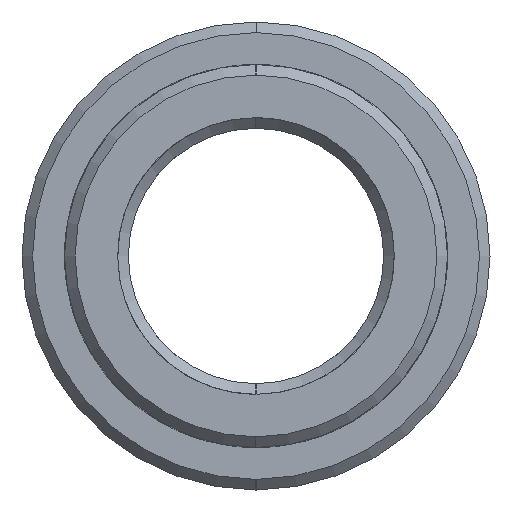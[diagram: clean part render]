
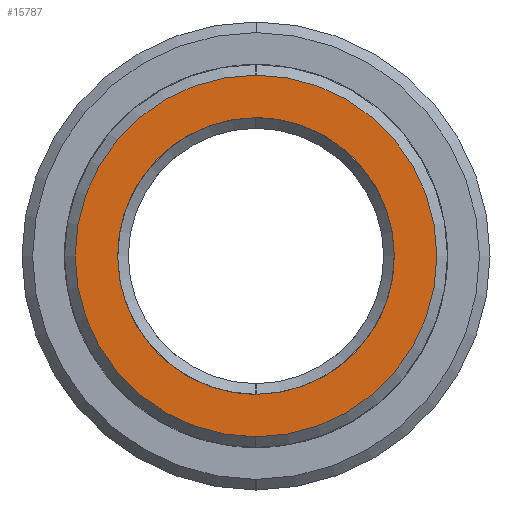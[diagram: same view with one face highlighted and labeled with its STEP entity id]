
A CAD part, left-side view. The second image highlights one B-rep face of the part: STEP entity #15787.
In plain terms, the highlighted planar face has unit normal (1, 0, 0).
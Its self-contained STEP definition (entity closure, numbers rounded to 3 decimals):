
#15704=CARTESIAN_POINT('Axis2P3D Location',(-9.,0.,0.)) ;
#15709=CARTESIAN_POINT('Axis2P3D Location',(-9.,0.,0.)) ;
#15713=CARTESIAN_POINT('Vertex',(-9.,0.,8.5)) ;
#15715=CARTESIAN_POINT('Vertex',(-9.,0.,-8.5)) ;
#15718=CARTESIAN_POINT('Axis2P3D Location',(-9.,0.,0.)) ;
#15728=CARTESIAN_POINT('Control Point',(-9.,0.,6.5)) ;
#15729=CARTESIAN_POINT('Control Point',(-9.,0.624,6.5)) ;
#15730=CARTESIAN_POINT('Control Point',(-9.,1.249,6.425)) ;
#15731=CARTESIAN_POINT('Control Point',(-9.,1.861,6.275)) ;
#15732=CARTESIAN_POINT('Control Point',(-9.,3.038,5.831)) ;
#15733=CARTESIAN_POINT('Control Point',(-9.,4.077,5.121)) ;
#15734=CARTESIAN_POINT('Control Point',(-9.,4.551,4.705)) ;
#15735=CARTESIAN_POINT('Control Point',(-9.,5.389,3.767)) ;
#15736=CARTESIAN_POINT('Control Point',(-9.,5.982,2.657)) ;
#15737=CARTESIAN_POINT('Control Point',(-9.,6.21,2.069)) ;
#15738=CARTESIAN_POINT('Control Point',(-9.,6.52,0.85)) ;
#15739=CARTESIAN_POINT('Control Point',(-9.,6.533,-0.408)) ;
#15740=CARTESIAN_POINT('Control Point',(-9.,6.463,-1.035)) ;
#15741=CARTESIAN_POINT('Control Point',(-9.,6.175,-2.259)) ;
#15742=CARTESIAN_POINT('Control Point',(-9.,5.605,-3.381)) ;
#15743=CARTESIAN_POINT('Control Point',(-9.,5.253,-3.904)) ;
#15744=CARTESIAN_POINT('Control Point',(-9.,4.432,-4.857)) ;
#15745=CARTESIAN_POINT('Control Point',(-9.,3.408,-5.588)) ;
#15746=CARTESIAN_POINT('Control Point',(-9.,2.855,-5.89)) ;
#15747=CARTESIAN_POINT('Control Point',(-9.,1.955,-6.248)) ;
#15748=CARTESIAN_POINT('Control Point',(-9.,1.009,-6.434)) ;
#15749=CARTESIAN_POINT('Control Point',(-9.,0.674,-6.478)) ;
#15750=CARTESIAN_POINT('Control Point',(-9.,0.337,-6.5)) ;
#15751=CARTESIAN_POINT('Control Point',(-9.,0.,-6.5)) ;
#15752=CARTESIAN_POINT('Vertex',(-9.,0.,6.5)) ;
#15754=CARTESIAN_POINT('Vertex',(-9.,0.,-6.5)) ;
#15758=CARTESIAN_POINT('Control Point',(-9.,0.,-6.5)) ;
#15759=CARTESIAN_POINT('Control Point',(-9.,-0.624,-6.5)) ;
#15760=CARTESIAN_POINT('Control Point',(-9.,-1.249,-6.425)) ;
#15761=CARTESIAN_POINT('Control Point',(-9.,-1.861,-6.275)) ;
#15762=CARTESIAN_POINT('Control Point',(-9.,-3.038,-5.831)) ;
#15763=CARTESIAN_POINT('Control Point',(-9.,-4.077,-5.121)) ;
#15764=CARTESIAN_POINT('Control Point',(-9.,-4.551,-4.705)) ;
#15765=CARTESIAN_POINT('Control Point',(-9.,-5.389,-3.767)) ;
#15766=CARTESIAN_POINT('Control Point',(-9.,-5.982,-2.657)) ;
#15767=CARTESIAN_POINT('Control Point',(-9.,-6.21,-2.069)) ;
#15768=CARTESIAN_POINT('Control Point',(-9.,-6.52,-0.85)) ;
#15769=CARTESIAN_POINT('Control Point',(-9.,-6.533,0.408)) ;
#15770=CARTESIAN_POINT('Control Point',(-9.,-6.463,1.035)) ;
#15771=CARTESIAN_POINT('Control Point',(-9.,-6.175,2.259)) ;
#15772=CARTESIAN_POINT('Control Point',(-9.,-5.605,3.381)) ;
#15773=CARTESIAN_POINT('Control Point',(-9.,-5.253,3.904)) ;
#15774=CARTESIAN_POINT('Control Point',(-9.,-4.432,4.857)) ;
#15775=CARTESIAN_POINT('Control Point',(-9.,-3.408,5.588)) ;
#15776=CARTESIAN_POINT('Control Point',(-9.,-2.855,5.89)) ;
#15777=CARTESIAN_POINT('Control Point',(-9.,-1.955,6.248)) ;
#15778=CARTESIAN_POINT('Control Point',(-9.,-1.009,6.434)) ;
#15779=CARTESIAN_POINT('Control Point',(-9.,-0.674,6.478)) ;
#15780=CARTESIAN_POINT('Control Point',(-9.,-0.337,6.5)) ;
#15781=CARTESIAN_POINT('Control Point',(-9.,0.,6.5)) ;
#15705=DIRECTION('Axis2P3D Direction',(1.,0.,0.)) ;
#15706=DIRECTION('Axis2P3D XDirection',(0.,1.,0.)) ;
#15710=DIRECTION('Axis2P3D Direction',(1.,0.,0.)) ;
#15719=DIRECTION('Axis2P3D Direction',(1.,0.,0.)) ;
#15707=AXIS2_PLACEMENT_3D('Plane Axis2P3D',#15704,#15705,#15706) ;
#15711=AXIS2_PLACEMENT_3D('Circle Axis2P3D',#15709,#15710,$) ;
#15720=AXIS2_PLACEMENT_3D('Circle Axis2P3D',#15718,#15719,$) ;
#15724=ORIENTED_EDGE('',*,*,#15717,.T.) ;
#15725=ORIENTED_EDGE('',*,*,#15722,.T.) ;
#15784=ORIENTED_EDGE('',*,*,#15756,.T.) ;
#15785=ORIENTED_EDGE('',*,*,#15782,.T.) ;
#15786=FACE_BOUND('',#15783,.T.) ;
#15787=ADVANCED_FACE('MANIFOLD_SOLID_BREP #8473',(#15726,#15786),#15708,.T.) ;
#15727=B_SPLINE_CURVE_WITH_KNOTS('',5,(#15728,#15729,#15730,#15731,#15732,#15733,#15734,#15735,#15736,#15737,#15738,#15739,#15740,#15741,#15742,#15743,#15744,#15745,#15746,#15747,#15748,#15749,#15750,#15751),.UNSPECIFIED.,.F.,.U.,(6,3,3,3,3,3,3,6),(0.,4.416,8.832,13.247,17.663,22.079,26.495,28.878),.UNSPECIFIED.) ;
#15757=B_SPLINE_CURVE_WITH_KNOTS('',5,(#15758,#15759,#15760,#15761,#15762,#15763,#15764,#15765,#15766,#15767,#15768,#15769,#15770,#15771,#15772,#15773,#15774,#15775,#15776,#15777,#15778,#15779,#15780,#15781),.UNSPECIFIED.,.F.,.U.,(6,3,3,3,3,3,3,6),(0.,4.416,8.832,13.247,17.663,22.079,26.495,28.878),.UNSPECIFIED.) ;
#15712=CIRCLE('generated circle',#15711,8.5) ;
#15721=CIRCLE('generated circle',#15720,8.5) ;
#15717=EDGE_CURVE('',#15714,#15716,#15712,.T.) ;
#15722=EDGE_CURVE('',#15716,#15714,#15721,.T.) ;
#15756=EDGE_CURVE('',#15753,#15755,#15727,.T.) ;
#15782=EDGE_CURVE('',#15755,#15753,#15757,.T.) ;
#15723=EDGE_LOOP('',(#15724,#15725)) ;
#15783=EDGE_LOOP('',(#15784,#15785)) ;
#15726=FACE_OUTER_BOUND('',#15723,.T.) ;
#15708=PLANE('Plane',#15707) ;
#15714=VERTEX_POINT('',#15713) ;
#15716=VERTEX_POINT('',#15715) ;
#15753=VERTEX_POINT('',#15752) ;
#15755=VERTEX_POINT('',#15754) ;
